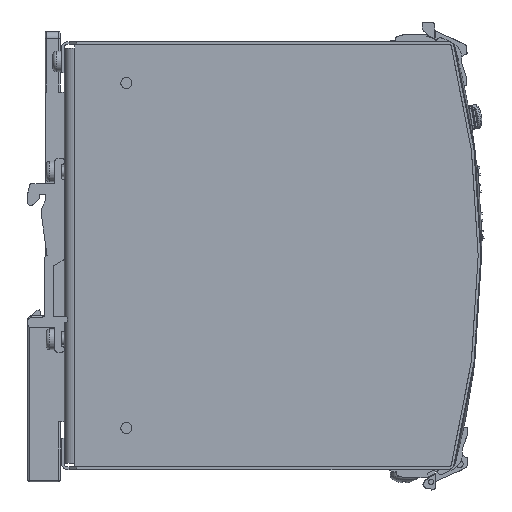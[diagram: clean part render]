
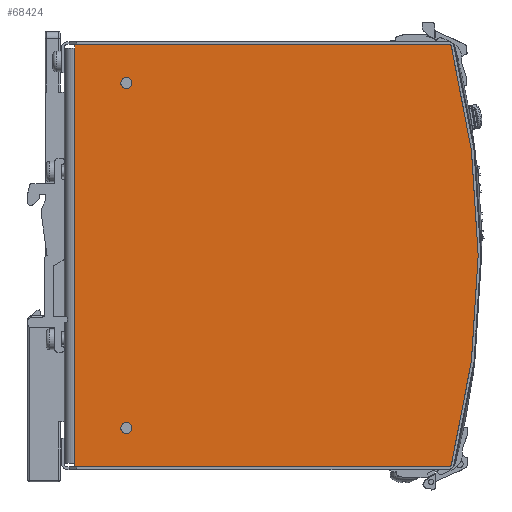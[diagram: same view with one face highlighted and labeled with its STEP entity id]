
A CAD part, front view. The second image highlights one B-rep face of the part: STEP entity #68424.
In plain terms, the highlighted planar face has unit normal (0, -1, 0).
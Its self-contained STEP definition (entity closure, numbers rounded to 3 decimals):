
#1759=FACE_BOUND('',#8654,.T.);
#1760=FACE_BOUND('',#8655,.T.);
#2385=PLANE('',#72642);
#4950=FACE_OUTER_BOUND('',#8653,.T.);
#8653=EDGE_LOOP('',(#46695,#46696,#46697,#46698,#46699,#46700));
#8654=EDGE_LOOP('',(#46701,#46702));
#8655=EDGE_LOOP('',(#46703,#46704));
#12938=CIRCLE('',#72616,1.6);
#12939=CIRCLE('',#72617,1.6);
#12941=CIRCLE('',#72620,1.6);
#12942=CIRCLE('',#72621,1.6);
#12944=CIRCLE('',#72633,240.);
#14690=LINE('',#96533,#22095);
#14718=LINE('',#96618,#22123);
#14727=LINE('',#96634,#22132);
#14731=LINE('',#96643,#22136);
#14739=LINE('',#96658,#22144);
#22095=VECTOR('',#78113,10.);
#22123=VECTOR('',#78199,10.);
#22132=VECTOR('',#78214,10.);
#22136=VECTOR('',#78222,10.);
#22144=VECTOR('',#78234,10.);
#29503=VERTEX_POINT('',#96530);
#29504=VERTEX_POINT('',#96532);
#29525=VERTEX_POINT('',#96596);
#29526=VERTEX_POINT('',#96597);
#29528=VERTEX_POINT('',#96604);
#29529=VERTEX_POINT('',#96605);
#29532=VERTEX_POINT('',#96617);
#29536=VERTEX_POINT('',#96632);
#29539=VERTEX_POINT('',#96642);
#29544=VERTEX_POINT('',#96656);
#36316=EDGE_CURVE('',#29504,#29503,#14690,.T.);
#36348=EDGE_CURVE('',#29525,#29526,#12938,.T.);
#36349=EDGE_CURVE('',#29526,#29525,#12939,.T.);
#36352=EDGE_CURVE('',#29528,#29529,#12941,.T.);
#36353=EDGE_CURVE('',#29529,#29528,#12942,.T.);
#36359=EDGE_CURVE('',#29532,#29504,#14718,.T.);
#36368=EDGE_CURVE('',#29503,#29536,#14727,.T.);
#36372=EDGE_CURVE('',#29539,#29532,#14731,.T.);
#36380=EDGE_CURVE('',#29544,#29536,#14739,.T.);
#36381=EDGE_CURVE('',#29544,#29539,#12944,.T.);
#46695=ORIENTED_EDGE('',*,*,#36381,.T.);
#46696=ORIENTED_EDGE('',*,*,#36372,.T.);
#46697=ORIENTED_EDGE('',*,*,#36359,.T.);
#46698=ORIENTED_EDGE('',*,*,#36316,.T.);
#46699=ORIENTED_EDGE('',*,*,#36368,.T.);
#46700=ORIENTED_EDGE('',*,*,#36380,.F.);
#46701=ORIENTED_EDGE('',*,*,#36348,.T.);
#46702=ORIENTED_EDGE('',*,*,#36349,.T.);
#46703=ORIENTED_EDGE('',*,*,#36352,.T.);
#46704=ORIENTED_EDGE('',*,*,#36353,.T.);
#68424=ADVANCED_FACE('',(#4950,#1759,#1760),#2385,.T.);
#72616=AXIS2_PLACEMENT_3D('',#96598,#78176,#78177);
#72617=AXIS2_PLACEMENT_3D('',#96599,#78178,#78179);
#72620=AXIS2_PLACEMENT_3D('',#96606,#78185,#78186);
#72621=AXIS2_PLACEMENT_3D('',#96607,#78187,#78188);
#72633=AXIS2_PLACEMENT_3D('',#96660,#78237,#78238);
#72642=AXIS2_PLACEMENT_3D('',#96674,#78258,#78259);
#78113=DIRECTION('',(0.,0.,-1.));
#78176=DIRECTION('center_axis',(0.,1.,0.));
#78177=DIRECTION('ref_axis',(1.,0.,0.));
#78178=DIRECTION('center_axis',(0.,1.,0.));
#78179=DIRECTION('ref_axis',(1.,0.,0.));
#78185=DIRECTION('center_axis',(0.,1.,0.));
#78186=DIRECTION('ref_axis',(1.,0.,0.));
#78187=DIRECTION('center_axis',(0.,1.,0.));
#78188=DIRECTION('ref_axis',(1.,0.,0.));
#78199=DIRECTION('',(0.,0.,-1.));
#78214=DIRECTION('',(0.,0.,-1.));
#78222=DIRECTION('',(-1.,0.,0.));
#78234=DIRECTION('',(-1.,0.,0.));
#78237=DIRECTION('center_axis',(0.,-1.,0.));
#78238=DIRECTION('ref_axis',(-0.967,0.,-0.255));
#78258=DIRECTION('center_axis',(0.,-1.,0.));
#78259=DIRECTION('ref_axis',(0.,0.,-1.));
#96530=CARTESIAN_POINT('',(3.,-24.,-60.15));
#96532=CARTESIAN_POINT('',(3.,-24.,60.15));
#96533=CARTESIAN_POINT('',(3.,-24.,-61.15));
#96596=CARTESIAN_POINT('',(19.6,-24.,-50.));
#96597=CARTESIAN_POINT('',(16.4,-24.,-50.));
#96598=CARTESIAN_POINT('Origin',(18.,-24.,-50.));
#96599=CARTESIAN_POINT('Origin',(18.,-24.,-50.));
#96604=CARTESIAN_POINT('',(19.6,-24.,50.));
#96605=CARTESIAN_POINT('',(16.4,-24.,50.));
#96606=CARTESIAN_POINT('Origin',(18.,-24.,50.));
#96607=CARTESIAN_POINT('Origin',(18.,-24.,50.));
#96617=CARTESIAN_POINT('',(3.,-24.,61.15));
#96618=CARTESIAN_POINT('',(3.,-24.,-61.15));
#96632=CARTESIAN_POINT('',(3.,-24.,-61.15));
#96634=CARTESIAN_POINT('',(3.,-24.,-61.15));
#96642=CARTESIAN_POINT('',(112.079,-24.,61.15));
#96643=CARTESIAN_POINT('',(130.,-24.,61.15));
#96656=CARTESIAN_POINT('',(112.079,-24.,-61.15));
#96658=CARTESIAN_POINT('',(130.,-24.,-61.15));
#96660=CARTESIAN_POINT('Origin',(-120.,-24.,0.));
#96674=CARTESIAN_POINT('Origin',(130.,-24.,-61.15));
